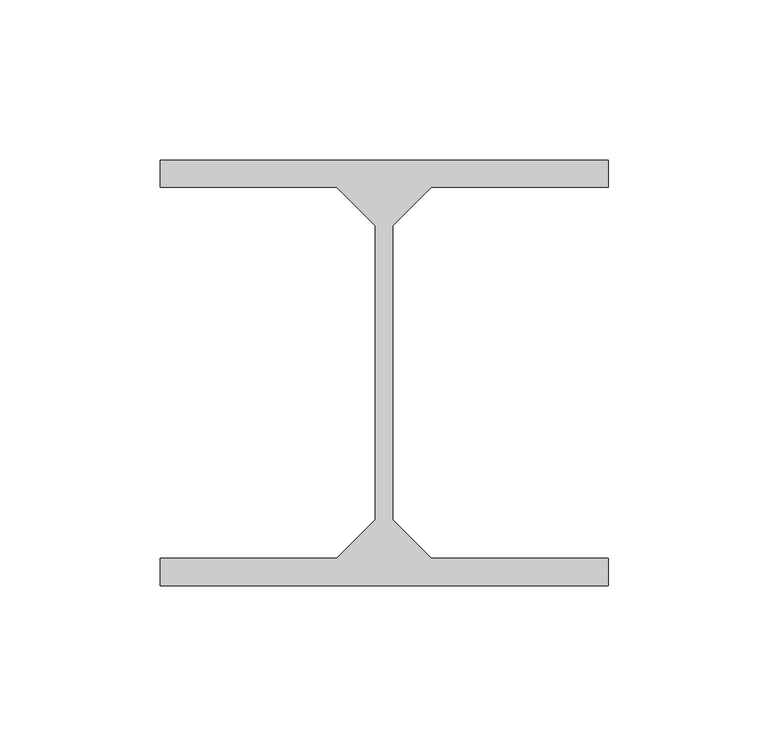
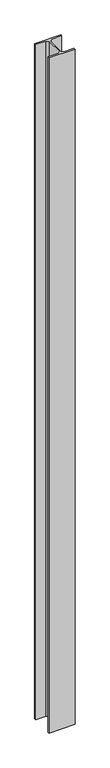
"""IFC4 building model written with IfcOpenShell, lengths in millimetres: beam geometry, Potelet 45714 : Potelet 45714."""

from ifc_helpers import new_model, si_unit, frame, origin, place, context, project, spatial, polyline, outline, extrude, source, transform, mapped, element, save


def beam_d5b4886c(model_context):
    return source(origin(), model_context, "Body", "SweptSolid", [
        extrude(outline(polyline([(7534.9999999, -23528.0), (7534.9999999, -23519.5), (7674.9999999, -23519.5), (7674.9999999, -23528.0), (7619.7499999, -23528.0), (7607.7499999, -23540.0), (7607.7499999, -23632.0), (7619.7499999, -23644.0), (7674.9999999, -23644.0), (7674.9999999, -23652.5), (7534.9999999, -23652.5), (7534.9999999, -23644.0), (7590.2499999, -23644.0), (7602.2499999, -23632.0), (7602.2499999, -23540.0), (7590.2499999, -23528.0), (7534.9999999, -23528.0)])), frame((0.0, 0.0, 7410.0), z_axis=(0.0, 0.0, 1.0), x_axis=(1.0, 0.0, 0.0)), (0.0, 0.0, 1.0), 3825.9485543),
    ])


if __name__ == "__main__":
    model = new_model("IFC4")
    model_context = context("Model", 3, world=origin())
    ifc_project = project(units=[si_unit("LENGTHUNIT", "METRE", prefix="MILLI")], contexts=[model_context])
    site = spatial("IfcSite", under=ifc_project)
    building = spatial("IfcBuilding", under=site)
    placement = place(None, origin())
    beam_shape = beam_d5b4886c(model_context)
    element("IfcBeam", 1, ObjectType="Potelet 45714 : Potelet 45714", at=placement, inside=building, context=model_context, shape_type="MappedRepresentation", body=[
        mapped(beam_shape, transform((0.0, 0.0, 0.0), x_axis=(1.0, 0.0, 0.0), y_axis=(0.0, 1.0, 0.0), z_axis=(0.0, 0.0, 1.0))),
    ])
    save(model, "model.ifc")
